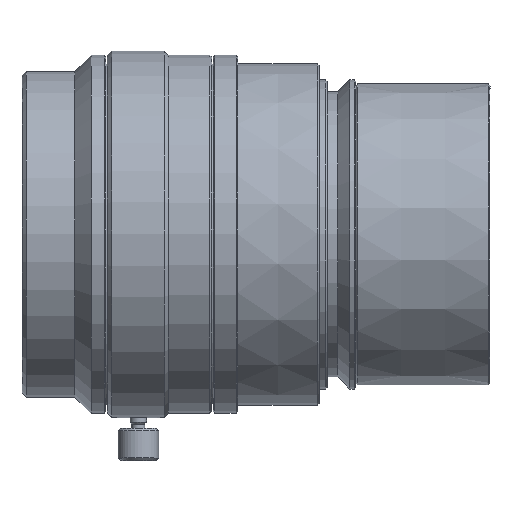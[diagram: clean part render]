
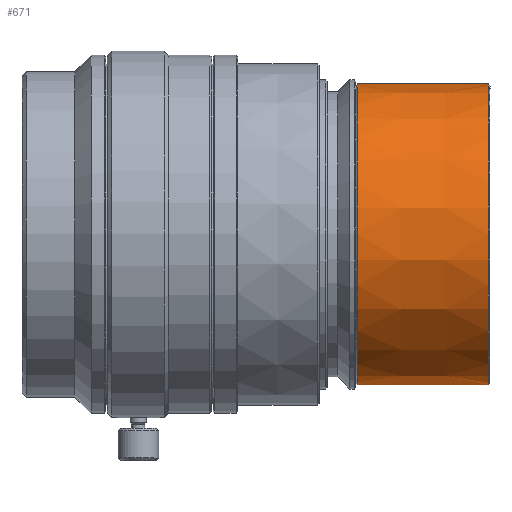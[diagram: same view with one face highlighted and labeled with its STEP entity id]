
A CAD part, top view. The second image highlights one B-rep face of the part: STEP entity #671.
In plain terms, the highlighted conical face has half-angle 0 degrees and reference radius 18.5 mm.
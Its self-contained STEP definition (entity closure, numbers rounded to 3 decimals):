
#52 = AXIS2_PLACEMENT_3D ( 'NONE', #828, #2350, #689 ) ;
#310 = CARTESIAN_POINT ( 'NONE',  ( 57.317, 18.5, 0. ) ) ;
#486 = EDGE_CURVE ( 'NONE', #2498, #1819, #2661, .T. ) ;
#641 = CARTESIAN_POINT ( 'NONE',  ( 41.217, 18.5, 0. ) ) ;
#671 = ADVANCED_FACE ( 'NONE', ( #1573 ), #1339, .T. ) ;
#689 = DIRECTION ( 'NONE',  ( 0., 1., 0. ) ) ;
#828 = CARTESIAN_POINT ( 'NONE',  ( 57.317, 0., 0. ) ) ;
#872 = CIRCLE ( 'NONE', #2932, 18.5 ) ;
#1218 = CARTESIAN_POINT ( 'NONE',  ( 41.217, 0., 0. ) ) ;
#1240 = ORIENTED_EDGE ( 'NONE', *, *, #1515, .T. ) ;
#1268 = DIRECTION ( 'NONE',  ( 1., 0., 0. ) ) ;
#1339 = CONICAL_SURFACE ( 'NONE', #52, 18.5, 0. ) ;
#1369 = DIRECTION ( 'NONE',  ( 1., 0., 0. ) ) ;
#1477 = DIRECTION ( 'NONE',  ( 0., 1., 0. ) ) ;
#1504 = CARTESIAN_POINT ( 'NONE',  ( 57.317, 0., 0. ) ) ;
#1511 = CARTESIAN_POINT ( 'NONE',  ( 57.317, -18.5, 0. ) ) ;
#1515 = EDGE_CURVE ( 'NONE', #2498, #2225, #872, .T. ) ;
#1573 = FACE_OUTER_BOUND ( 'NONE', #3217, .T. ) ;
#1641 = CIRCLE ( 'NONE', #1974, 18.5 ) ;
#1642 = ORIENTED_EDGE ( 'NONE', *, *, #2777, .T. ) ;
#1742 = LINE ( 'NONE', #1511, #3015 ) ;
#1760 = DIRECTION ( 'NONE',  ( 0., 1., 0. ) ) ;
#1819 = VERTEX_POINT ( 'NONE', #310 ) ;
#1915 = VECTOR ( 'NONE', #1369, 1000. ) ;
#1974 = AXIS2_PLACEMENT_3D ( 'NONE', #1504, #3268, #1760 ) ;
#2051 = VERTEX_POINT ( 'NONE', #2335 ) ;
#2225 = VERTEX_POINT ( 'NONE', #2796 ) ;
#2335 = CARTESIAN_POINT ( 'NONE',  ( 57.317, -18.5, 0. ) ) ;
#2350 = DIRECTION ( 'NONE',  ( 1., 0., 0. ) ) ;
#2498 = VERTEX_POINT ( 'NONE', #641 ) ;
#2542 = ORIENTED_EDGE ( 'NONE', *, *, #486, .F. ) ;
#2637 = CARTESIAN_POINT ( 'NONE',  ( 57.317, 18.5, 0. ) ) ;
#2661 = LINE ( 'NONE', #2637, #1915 ) ;
#2777 = EDGE_CURVE ( 'NONE', #2225, #2051, #1742, .T. ) ;
#2796 = CARTESIAN_POINT ( 'NONE',  ( 41.217, -18.5, 0. ) ) ;
#2932 = AXIS2_PLACEMENT_3D ( 'NONE', #1218, #3002, #1477 ) ;
#3002 = DIRECTION ( 'NONE',  ( 1., 0., 0. ) ) ;
#3015 = VECTOR ( 'NONE', #1268, 1000. ) ;
#3157 = EDGE_CURVE ( 'NONE', #1819, #2051, #1641, .T. ) ;
#3217 = EDGE_LOOP ( 'NONE', ( #1240, #1642, #3251, #2542 ) ) ;
#3251 = ORIENTED_EDGE ( 'NONE', *, *, #3157, .F. ) ;
#3268 = DIRECTION ( 'NONE',  ( 1., 0., 0. ) ) ;
